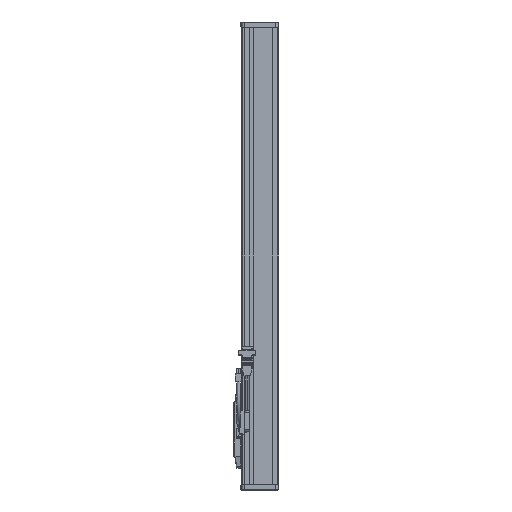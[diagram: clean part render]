
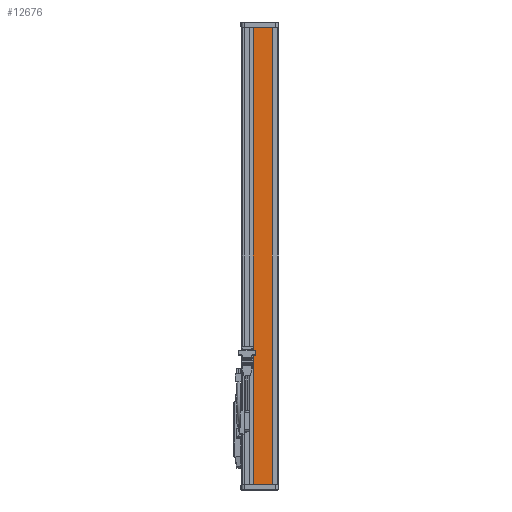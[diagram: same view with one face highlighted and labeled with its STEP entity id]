
A CAD part, left-side view. The second image highlights one B-rep face of the part: STEP entity #12676.
In plain terms, the highlighted planar face has unit normal (-1, 0, 0).
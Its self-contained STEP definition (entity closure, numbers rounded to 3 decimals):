
#144 = PLANE('',#145);
#145 = AXIS2_PLACEMENT_3D('',#146,#147,#148);
#146 = CARTESIAN_POINT('',(-36.5,59.6,790.));
#147 = DIRECTION('',(0.,0.,1.));
#148 = DIRECTION('',(1.,0.,-0.));
#809 = PLANE('',#810);
#810 = AXIS2_PLACEMENT_3D('',#811,#812,#813);
#811 = CARTESIAN_POINT('',(-36.5,59.6,0.));
#812 = DIRECTION('',(0.,0.,1.));
#813 = DIRECTION('',(1.,0.,-0.));
#7751 = VERTEX_POINT('',#7752);
#7752 = CARTESIAN_POINT('',(-40.5,43.6,790.));
#7766 = PLANE('',#7767);
#7767 = AXIS2_PLACEMENT_3D('',#7768,#7769,#7770);
#7768 = CARTESIAN_POINT('',(-40.,43.6,790.));
#7769 = DIRECTION('',(0.,1.,0.));
#7770 = DIRECTION('',(0.,-0.,1.));
#7778 = EDGE_CURVE('',#7751,#7779,#7781,.T.);
#7779 = VERTEX_POINT('',#7780);
#7780 = CARTESIAN_POINT('',(-40.5,11.,790.));
#7781 = SURFACE_CURVE('',#7782,(#7786,#7793),.PCURVE_S1.);
#7782 = LINE('',#7783,#7784);
#7783 = CARTESIAN_POINT('',(-40.5,19.,790.));
#7784 = VECTOR('',#7785,1.);
#7785 = DIRECTION('',(0.,-1.,0.));
#7786 = PCURVE('',#144,#7787);
#7787 = DEFINITIONAL_REPRESENTATION('',(#7788),#7792);
#7788 = LINE('',#7789,#7790);
#7789 = CARTESIAN_POINT('',(-4.,-40.6));
#7790 = VECTOR('',#7791,1.);
#7791 = DIRECTION('',(0.,-1.));
#7792 = ( GEOMETRIC_REPRESENTATION_CONTEXT(2) 
PARAMETRIC_REPRESENTATION_CONTEXT() REPRESENTATION_CONTEXT('2D SPACE',''
  ) );
#7793 = PCURVE('',#7794,#7799);
#7794 = PLANE('',#7795);
#7795 = AXIS2_PLACEMENT_3D('',#7796,#7797,#7798);
#7796 = CARTESIAN_POINT('',(-40.5,19.,790.));
#7797 = DIRECTION('',(1.,0.,-0.));
#7798 = DIRECTION('',(-0.,0.,-1.));
#7799 = DEFINITIONAL_REPRESENTATION('',(#7800),#7804);
#7800 = LINE('',#7801,#7802);
#7801 = CARTESIAN_POINT('',(0.,0.));
#7802 = VECTOR('',#7803,1.);
#7803 = DIRECTION('',(-0.,-1.));
#7804 = ( GEOMETRIC_REPRESENTATION_CONTEXT(2) 
PARAMETRIC_REPRESENTATION_CONTEXT() REPRESENTATION_CONTEXT('2D SPACE',''
  ) );
#7822 = PLANE('',#7823);
#7823 = AXIS2_PLACEMENT_3D('',#7824,#7825,#7826);
#7824 = CARTESIAN_POINT('',(-41.,10.5,790.));
#7825 = DIRECTION('',(0.707,-0.707,0.));
#7826 = DIRECTION('',(0.707,0.707,0.));
#9168 = VERTEX_POINT('',#9169);
#9169 = CARTESIAN_POINT('',(-40.5,11.,0.));
#9190 = EDGE_CURVE('',#9191,#9168,#9193,.T.);
#9191 = VERTEX_POINT('',#9192);
#9192 = CARTESIAN_POINT('',(-40.5,43.6,0.));
#9193 = SURFACE_CURVE('',#9194,(#9198,#9205),.PCURVE_S1.);
#9194 = LINE('',#9195,#9196);
#9195 = CARTESIAN_POINT('',(-40.5,19.,0.));
#9196 = VECTOR('',#9197,1.);
#9197 = DIRECTION('',(0.,-1.,0.));
#9198 = PCURVE('',#809,#9199);
#9199 = DEFINITIONAL_REPRESENTATION('',(#9200),#9204);
#9200 = LINE('',#9201,#9202);
#9201 = CARTESIAN_POINT('',(-4.,-40.6));
#9202 = VECTOR('',#9203,1.);
#9203 = DIRECTION('',(0.,-1.));
#9204 = ( GEOMETRIC_REPRESENTATION_CONTEXT(2) 
PARAMETRIC_REPRESENTATION_CONTEXT() REPRESENTATION_CONTEXT('2D SPACE',''
  ) );
#9205 = PCURVE('',#7794,#9206);
#9206 = DEFINITIONAL_REPRESENTATION('',(#9207),#9211);
#9207 = LINE('',#9208,#9209);
#9208 = CARTESIAN_POINT('',(790.,0.));
#9209 = VECTOR('',#9210,1.);
#9210 = DIRECTION('',(-0.,-1.));
#9211 = ( GEOMETRIC_REPRESENTATION_CONTEXT(2) 
PARAMETRIC_REPRESENTATION_CONTEXT() REPRESENTATION_CONTEXT('2D SPACE',''
  ) );
#11038 = EDGE_CURVE('',#7779,#9168,#11039,.T.);
#11039 = SURFACE_CURVE('',#11040,(#11044,#11051),.PCURVE_S1.);
#11040 = LINE('',#11041,#11042);
#11041 = CARTESIAN_POINT('',(-40.5,11.,790.));
#11042 = VECTOR('',#11043,1.);
#11043 = DIRECTION('',(-0.,-0.,-1.));
#11044 = PCURVE('',#7822,#11045);
#11045 = DEFINITIONAL_REPRESENTATION('',(#11046),#11050);
#11046 = LINE('',#11047,#11048);
#11047 = CARTESIAN_POINT('',(0.707,0.));
#11048 = VECTOR('',#11049,1.);
#11049 = DIRECTION('',(0.,-1.));
#11050 = ( GEOMETRIC_REPRESENTATION_CONTEXT(2) 
PARAMETRIC_REPRESENTATION_CONTEXT() REPRESENTATION_CONTEXT('2D SPACE',''
  ) );
#11051 = PCURVE('',#7794,#11052);
#11052 = DEFINITIONAL_REPRESENTATION('',(#11053),#11057);
#11053 = LINE('',#11054,#11055);
#11054 = CARTESIAN_POINT('',(-0.,-8.));
#11055 = VECTOR('',#11056,1.);
#11056 = DIRECTION('',(1.,-0.));
#11057 = ( GEOMETRIC_REPRESENTATION_CONTEXT(2) 
PARAMETRIC_REPRESENTATION_CONTEXT() REPRESENTATION_CONTEXT('2D SPACE',''
  ) );
#12676 = ADVANCED_FACE('',(#12677),#7794,.F.);
#12677 = FACE_BOUND('',#12678,.T.);
#12678 = EDGE_LOOP('',(#12679,#12680,#12681,#12682));
#12679 = ORIENTED_EDGE('',*,*,#9190,.T.);
#12680 = ORIENTED_EDGE('',*,*,#11038,.F.);
#12681 = ORIENTED_EDGE('',*,*,#7778,.F.);
#12682 = ORIENTED_EDGE('',*,*,#12683,.F.);
#12683 = EDGE_CURVE('',#9191,#7751,#12684,.T.);
#12684 = SURFACE_CURVE('',#12685,(#12689,#12696),.PCURVE_S1.);
#12685 = LINE('',#12686,#12687);
#12686 = CARTESIAN_POINT('',(-40.5,43.6,790.));
#12687 = VECTOR('',#12688,1.);
#12688 = DIRECTION('',(0.,0.,1.));
#12689 = PCURVE('',#7794,#12690);
#12690 = DEFINITIONAL_REPRESENTATION('',(#12691),#12695);
#12691 = LINE('',#12692,#12693);
#12692 = CARTESIAN_POINT('',(0.,24.6));
#12693 = VECTOR('',#12694,1.);
#12694 = DIRECTION('',(-1.,0.));
#12695 = ( GEOMETRIC_REPRESENTATION_CONTEXT(2) 
PARAMETRIC_REPRESENTATION_CONTEXT() REPRESENTATION_CONTEXT('2D SPACE',''
  ) );
#12696 = PCURVE('',#7766,#12697);
#12697 = DEFINITIONAL_REPRESENTATION('',(#12698),#12702);
#12698 = LINE('',#12699,#12700);
#12699 = CARTESIAN_POINT('',(0.,-0.5));
#12700 = VECTOR('',#12701,1.);
#12701 = DIRECTION('',(1.,0.));
#12702 = ( GEOMETRIC_REPRESENTATION_CONTEXT(2) 
PARAMETRIC_REPRESENTATION_CONTEXT() REPRESENTATION_CONTEXT('2D SPACE',''
  ) );
